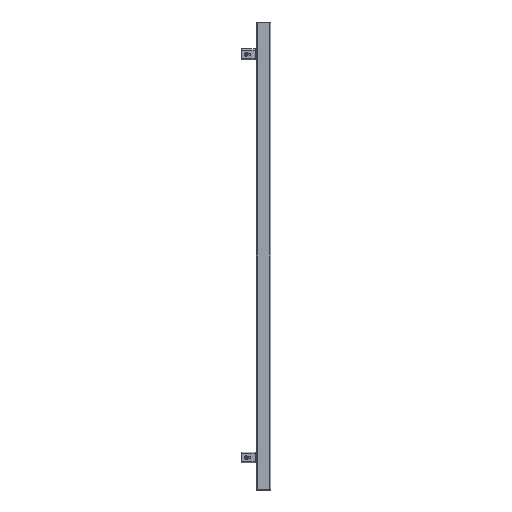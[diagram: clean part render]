
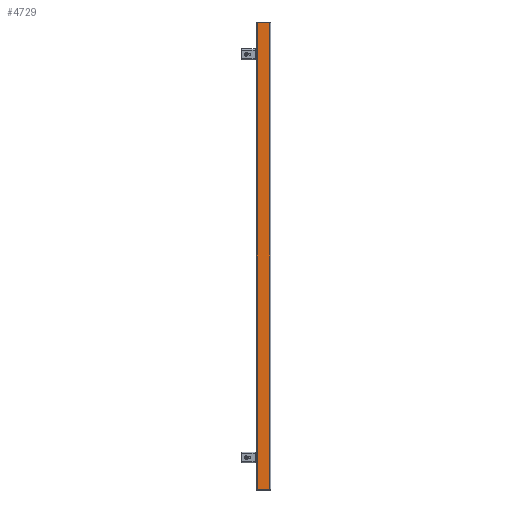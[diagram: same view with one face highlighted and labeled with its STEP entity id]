
A CAD part, left-side view. The second image highlights one B-rep face of the part: STEP entity #4729.
In plain terms, the highlighted planar face has unit normal (-1, 0, 0).
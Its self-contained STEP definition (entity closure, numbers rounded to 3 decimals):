
#4380=CARTESIAN_POINT('',(-140.0,-17.,1.5));
#4381=VERTEX_POINT('',#4380);
#4532=CARTESIAN_POINT('',(-140.0,17.,1.5));
#4533=VERTEX_POINT('',#4532);
#4550=CARTESIAN_POINT('',(-140.0,-17.,1.5));
#4551=DIRECTION('',(0.0,1.0,0.0));
#4552=VECTOR('',#4551,34.0);
#4553=LINE('',#4550,#4552);
#4554=EDGE_CURVE('',#4381,#4533,#4553,.T.);
#4699=CARTESIAN_POINT('',(-140.0,-17.,0.0));
#4700=DIRECTION('',(-1.0,0.0,0.0));
#4701=DIRECTION('',(0.0,0.0,1.0));
#4702=AXIS2_PLACEMENT_3D('',#4699,#4700,#4701);
#4703=PLANE('',#4702);
#4704=ORIENTED_EDGE('',*,*,#4554,.F.);
#4705=CARTESIAN_POINT('',(-140.0,-17.,1298.5));
#4706=VERTEX_POINT('',#4705);
#4707=CARTESIAN_POINT('',(-140.0,-17.,1.5));
#4708=DIRECTION('',(0.0,0.0,1.0));
#4709=VECTOR('',#4708,1297.0);
#4710=LINE('',#4707,#4709);
#4711=EDGE_CURVE('',#4381,#4706,#4710,.T.);
#4712=ORIENTED_EDGE('',*,*,#4711,.T.);
#4713=CARTESIAN_POINT('',(-140.0,17.,1298.5));
#4714=VERTEX_POINT('',#4713);
#4715=CARTESIAN_POINT('',(-140.0,17.,1298.5));
#4716=DIRECTION('',(0.0,-1.0,0.0));
#4717=VECTOR('',#4716,34.0);
#4718=LINE('',#4715,#4717);
#4719=EDGE_CURVE('',#4714,#4706,#4718,.T.);
#4720=ORIENTED_EDGE('',*,*,#4719,.F.);
#4721=CARTESIAN_POINT('',(-140.0,17.,1.5));
#4722=DIRECTION('',(0.0,0.0,1.0));
#4723=VECTOR('',#4722,1297.0);
#4724=LINE('',#4721,#4723);
#4725=EDGE_CURVE('',#4533,#4714,#4724,.T.);
#4726=ORIENTED_EDGE('',*,*,#4725,.F.);
#4727=EDGE_LOOP('',(#4704,#4712,#4720,#4726));
#4728=FACE_OUTER_BOUND('',#4727,.T.);
#4729=ADVANCED_FACE('',(#4728),#4703,.T.);
